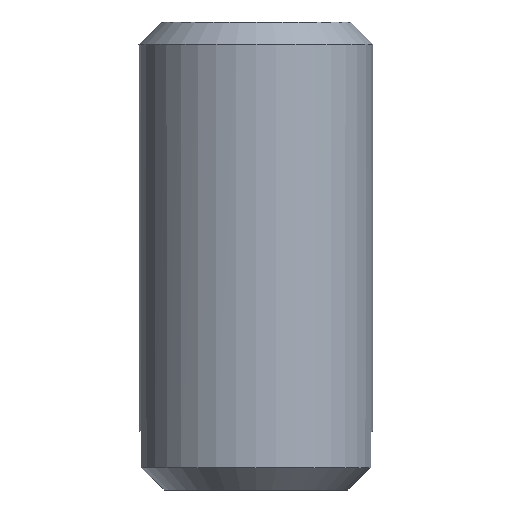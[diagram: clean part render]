
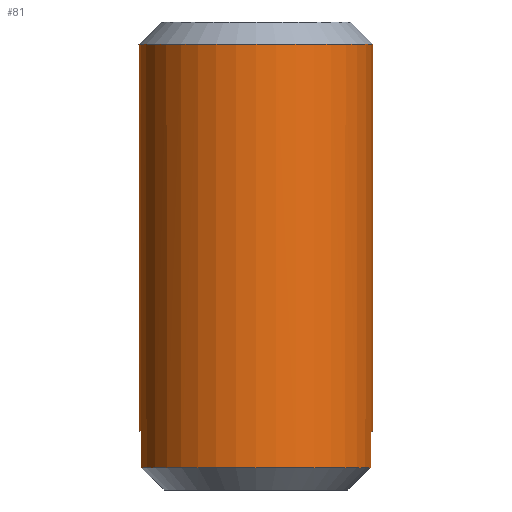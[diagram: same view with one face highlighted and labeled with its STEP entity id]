
A CAD part, front view. The second image highlights one B-rep face of the part: STEP entity #81.
In plain terms, the highlighted cylindrical face has radius 4 mm (diameter 8 mm), a full revolution.
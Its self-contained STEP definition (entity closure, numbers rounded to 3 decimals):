
#81 = ADVANCED_FACE( '', ( #104, #105 ), #106, .T. );
#104 = FACE_OUTER_BOUND( '', #133, .T. );
#105 = FACE_OUTER_BOUND( '', #134, .T. );
#106 = CYLINDRICAL_SURFACE( '', #135, 4. );
#133 = EDGE_LOOP( '', ( #184 ) );
#134 = EDGE_LOOP( '', ( #185, #186, #187, #188, #189, #190, #191, #192 ) );
#135 = AXIS2_PLACEMENT_3D( '', #193, #194, #195 );
#184 = ORIENTED_EDGE( '', *, *, #243, .F. );
#185 = ORIENTED_EDGE( '', *, *, #236, .F. );
#186 = ORIENTED_EDGE( '', *, *, #244, .T. );
#187 = ORIENTED_EDGE( '', *, *, #228, .F. );
#188 = ORIENTED_EDGE( '', *, *, #245, .T. );
#189 = ORIENTED_EDGE( '', *, *, #230, .F. );
#190 = ORIENTED_EDGE( '', *, *, #246, .T. );
#191 = ORIENTED_EDGE( '', *, *, #234, .F. );
#192 = ORIENTED_EDGE( '', *, *, #247, .T. );
#193 = CARTESIAN_POINT( '', ( 0., 0., 0. ) );
#194 = DIRECTION( '', ( 0., 0., -1. ) );
#195 = DIRECTION( '', ( 1., 0., 0. ) );
#228 = EDGE_CURVE( '', #251, #253, #254, .T. );
#230 = EDGE_CURVE( '', #255, #257, #258, .F. );
#234 = EDGE_CURVE( '', #263, #265, #266, .T. );
#236 = EDGE_CURVE( '', #267, #269, #270, .F. );
#243 = EDGE_CURVE( '', #280, #280, #281, .T. );
#244 = EDGE_CURVE( '', #267, #253, #282, .T. );
#245 = EDGE_CURVE( '', #251, #257, #283, .T. );
#246 = EDGE_CURVE( '', #255, #265, #284, .T. );
#247 = EDGE_CURVE( '', #263, #269, #285, .T. );
#251 = VERTEX_POINT( '', #289 );
#253 = VERTEX_POINT( '', #294 );
#254 = LINE( '', #295, #296 );
#255 = VERTEX_POINT( '', #297 );
#257 = VERTEX_POINT( '', #300 );
#258 = LINE( '', #301, #302 );
#263 = VERTEX_POINT( '', #311 );
#265 = VERTEX_POINT( '', #316 );
#266 = LINE( '', #317, #318 );
#267 = VERTEX_POINT( '', #319 );
#269 = VERTEX_POINT( '', #322 );
#270 = LINE( '', #323, #324 );
#280 = VERTEX_POINT( '', #338 );
#281 = CIRCLE( '', #339, 4. );
#282 = CIRCLE( '', #340, 4. );
#283 = CIRCLE( '', #341, 4. );
#284 = CIRCLE( '', #342, 4. );
#285 = CIRCLE( '', #343, 4. );
#289 = CARTESIAN_POINT( '', ( -3.929, -0.75, -15.233 ) );
#294 = CARTESIAN_POINT( '', ( -3.929, -0.75, -14. ) );
#295 = CARTESIAN_POINT( '', ( -3.929, -0.75, 0. ) );
#296 = VECTOR( '', #346, 1000. );
#297 = CARTESIAN_POINT( '', ( 3.929, -0.75, -14. ) );
#300 = CARTESIAN_POINT( '', ( 3.929, -0.75, -15.233 ) );
#301 = CARTESIAN_POINT( '', ( 3.929, -0.75, 0. ) );
#302 = VECTOR( '', #348, 1000. );
#311 = CARTESIAN_POINT( '', ( 3.929, 0.75, -15.233 ) );
#316 = CARTESIAN_POINT( '', ( 3.929, 0.75, -14. ) );
#317 = CARTESIAN_POINT( '', ( 3.929, 0.75, 0. ) );
#318 = VECTOR( '', #350, 1000. );
#319 = CARTESIAN_POINT( '', ( -3.929, 0.75, -14. ) );
#322 = CARTESIAN_POINT( '', ( -3.929, 0.75, -15.233 ) );
#323 = CARTESIAN_POINT( '', ( -3.929, 0.75, 0. ) );
#324 = VECTOR( '', #352, 1000. );
#338 = CARTESIAN_POINT( '', ( 4., 0., -0.767 ) );
#339 = AXIS2_PLACEMENT_3D( '', #363, #364, #365 );
#340 = AXIS2_PLACEMENT_3D( '', #366, #367, #368 );
#341 = AXIS2_PLACEMENT_3D( '', #369, #370, #371 );
#342 = AXIS2_PLACEMENT_3D( '', #372, #373, #374 );
#343 = AXIS2_PLACEMENT_3D( '', #375, #376, #377 );
#346 = DIRECTION( '', ( 0., 0., 1. ) );
#348 = DIRECTION( '', ( 0., 0., 1. ) );
#350 = DIRECTION( '', ( 0., 0., 1. ) );
#352 = DIRECTION( '', ( 0., 0., 1. ) );
#363 = CARTESIAN_POINT( '', ( 0., 0., -0.767 ) );
#364 = DIRECTION( '', ( 0., 0., 1. ) );
#365 = DIRECTION( '', ( 1., 0., 0. ) );
#366 = CARTESIAN_POINT( '', ( 0., 0., -14. ) );
#367 = DIRECTION( '', ( 0., 0., 1. ) );
#368 = DIRECTION( '', ( 1., 0., 0. ) );
#369 = CARTESIAN_POINT( '', ( 0., 0., -15.233 ) );
#370 = DIRECTION( '', ( 0., 0., 1. ) );
#371 = DIRECTION( '', ( 1., 0., 0. ) );
#372 = CARTESIAN_POINT( '', ( 0., 0., -14. ) );
#373 = DIRECTION( '', ( 0., 0., 1. ) );
#374 = DIRECTION( '', ( 1., 0., 0. ) );
#375 = CARTESIAN_POINT( '', ( 0., 0., -15.233 ) );
#376 = DIRECTION( '', ( 0., 0., 1. ) );
#377 = DIRECTION( '', ( 1., 0., 0. ) );
